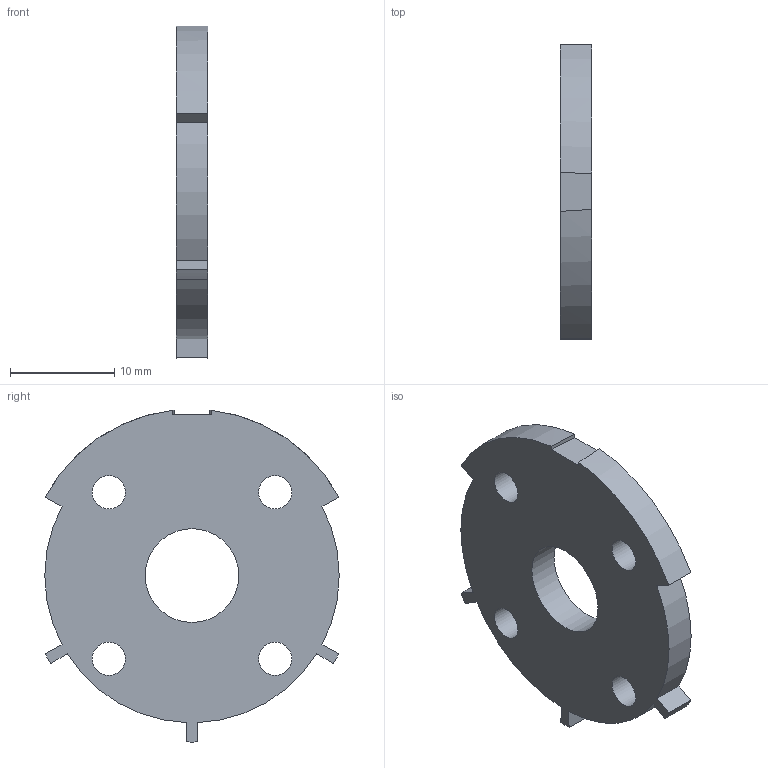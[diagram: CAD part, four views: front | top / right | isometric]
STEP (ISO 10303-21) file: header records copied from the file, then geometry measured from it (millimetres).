
FILE_DESCRIPTION(('Open CASCADE Model'),'2;1');
FILE_NAME('Open CASCADE Shape Model','2026-10-04T21:26:27',('Author'),( 'Open CASCADE'),'Open CASCADE STEP processor 7.9','Open CASCADE 7.9' ,'Unknown');
FILE_SCHEMA(('AUTOMOTIVE_DESIGN { 1 0 10303 214 1 1 1 1 }'));
Length unit declared in the file: millimetre
Products named in the file (1): Open CASCADE STEP translator 7.9 23
Bounding box: 3 x 28.3 x 31.91 mm (x, y, z)
Volume: 1793.3 mm3; surface area: 1727.7 mm2
Topology: 1 solids, 1 shells, 27 faces, 75 edges, 50 vertices
Faces by surface type: cylinder 14, plane 11, bspline 2
Full cylindrical faces by diameter (mm): 3.2 x4, 9 x1
Entity records: 2204 total; most frequent: CARTESIAN_POINT 811, DIRECTION 215, ORIENTED_EDGE 150, PCURVE 150, DEFINITIONAL_REPRESENTATION 150, B_SPLINE_CURVE_WITH_KNOTS 90, LINE 79, VECTOR 79
